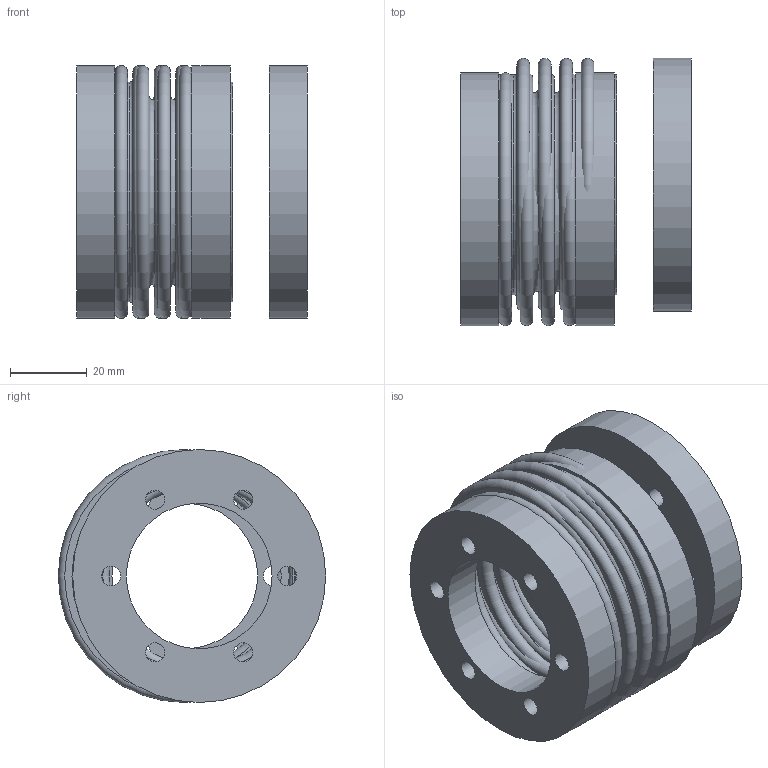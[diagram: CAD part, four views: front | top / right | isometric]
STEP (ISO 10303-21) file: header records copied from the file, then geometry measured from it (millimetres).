
FILE_DESCRIPTION( ( 'Unknown' ), '1' );
FILE_NAME( 'C:/Dokumente und Einstellungen/Sven/Desktop/homepage/cad - homepage/KB7/KB7-60-412.stp', 'Unknown', ( 'Unknown' ), ( 'Unknown' ), 'XStep 1.0', 'Unknown', ' ' );
FILE_SCHEMA( ( 'automotive_design' ) );
Length unit declared in the file: millimetre
Products named in the file (3): Assem1; FN60_Standard_1; BK60_Standard_0
Bounding box: 60.24 x 69.75 x 66 mm (x, y, z)
Volume: 80693.6 mm3; surface area: 87818.5 mm2
Topology: 5 solids, 5 shells, 106 faces, 190 edges, 126 vertices
Faces by surface type: plane 42, cylinder 32, torus 32
Full cylindrical faces by diameter (mm): 5 x18, 38 x3, 56.3 x4, 57.3 x4, 66 x3
Entity records: 1418 total; most frequent: DIRECTION 212, CARTESIAN_POINT 160, EDGE_LOOP 108, ORIENTED_EDGE 108, AXIS2_PLACEMENT_3D 106, FACE_OUTER_BOUND 76, EDGE_CURVE 54, VERTEX_POINT 54
